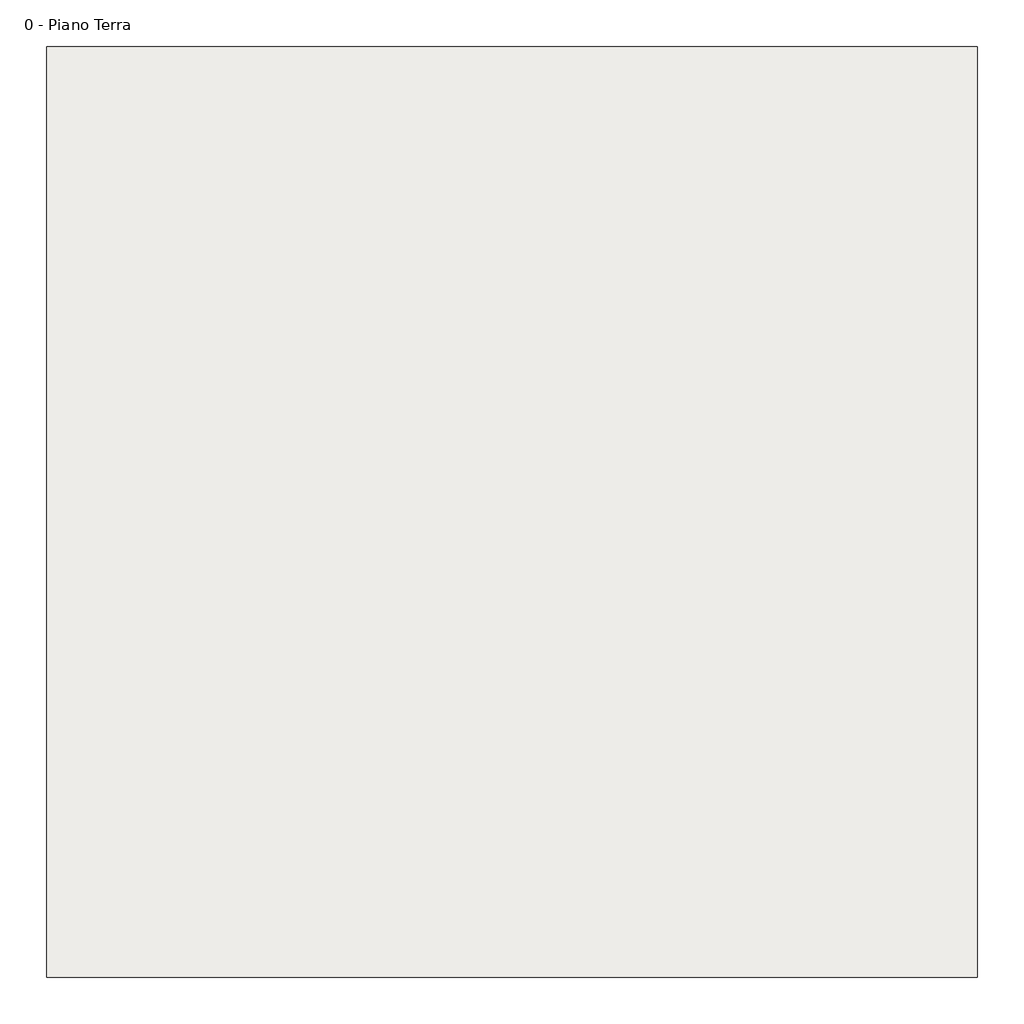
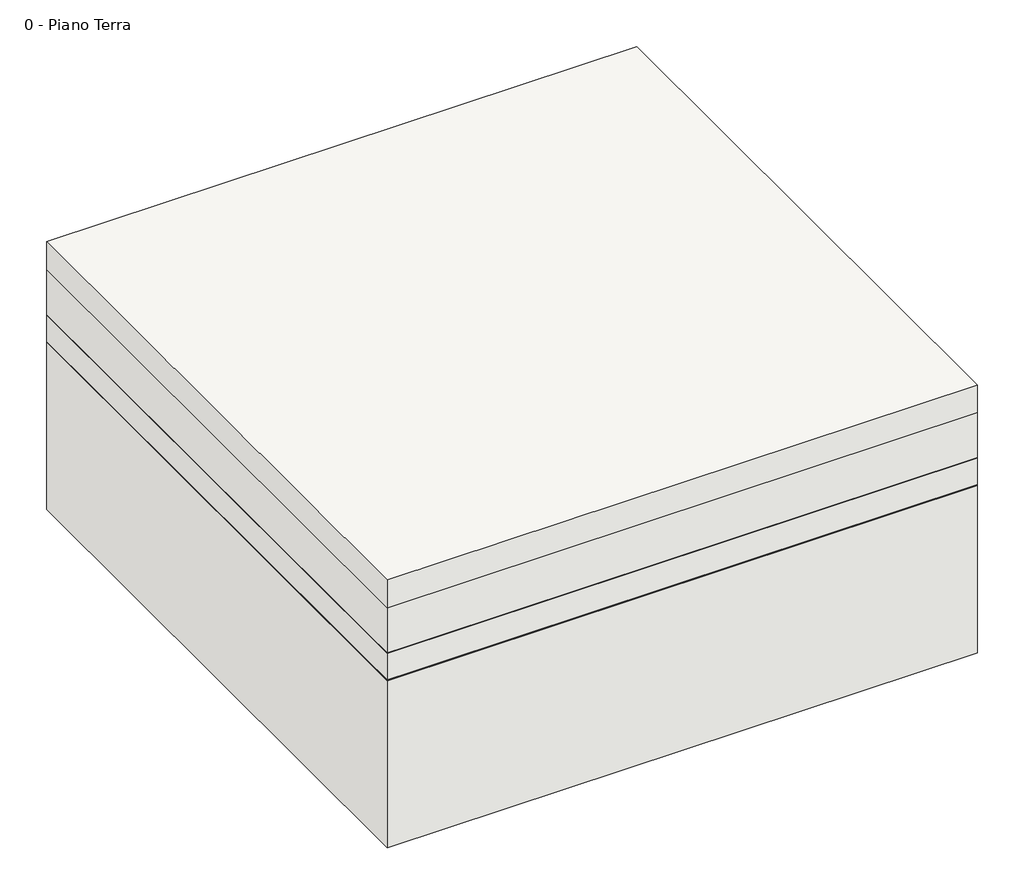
# One storey: 1 roof.
"""IFC4 building model written with IfcOpenShell, lengths in millimetres."""

from ifc_helpers import new_model, si_unit, frame, origin, place, context, project, spatial, polyline, outline, extrude, element, save

model = new_model("IFC4")

# Units and contexts
model_context = context("Model", 3, world=origin())
ifc_project = project(units=[si_unit("LENGTHUNIT", "METRE", prefix="MILLI")], contexts=[model_context])

# Site, building, storey
site = spatial("IfcSite", under=ifc_project)
building = spatial("IfcBuilding", under=site)
storey = spatial("IfcBuildingStorey", under=building, Name="0 - Piano Terra", Elevation=0.0)

# Roof
placement = place(None, origin())
element("IfcRoof", 1, ObjectType="DAKU_ESTENSIVO BASE", at=placement, inside=storey, context=model_context, shape_type="SweptSolid", body=[
    extrude(outline(polyline([(-577.9721405, 368.8308162), (422.0278595, 368.8308162), (422.0278595, -631.1691838), (-577.9721405, -631.1691838), (-577.9721405, 368.8308162)])), frame((0.0, 0.0, 0.05), z_axis=(0.0, 0.0, 1.0), x_axis=(1.0, 0.0, 0.0)), (0.0, 0.0, 1.0), 50.0),
    extrude(outline(polyline([(-577.9721405, 368.8308162), (422.0278595, 368.8308162), (422.0278595, -631.1691838), (-577.9721405, -631.1691838), (-577.9721405, 368.8308162)])), frame((0.0, 0.0, -79.95), z_axis=(0.0, 0.0, 1.0), x_axis=(1.0, 0.0, 0.0)), (0.0, 0.0, 1.0), 80.0),
    extrude(outline(polyline([(-577.9721405, 368.8308162), (422.0278595, 368.8308162), (422.0278595, -631.1691838), (-577.9721405, -631.1691838), (-577.9721405, 368.8308162)])), frame((0.0, 0.0, -81.3), z_axis=(0.0, 0.0, 1.0), x_axis=(1.0, 0.0, 0.0)), (0.0, 0.0, 1.0), 1.35),
    extrude(outline(polyline([(-577.9721405, 368.8308162), (422.0278595, 368.8308162), (422.0278595, -631.1691838), (-577.9721405, -631.1691838), (-577.9721405, 368.8308162)])), frame((0.0, 0.0, -128.3), z_axis=(0.0, 0.0, 1.0), x_axis=(1.0, 0.0, 0.0)), (0.0, 0.0, 1.0), 47.0),
    extrude(outline(polyline([(-577.9721405, 368.8308162), (422.0278595, 368.8308162), (422.0278595, -631.1691838), (-577.9721405, -631.1691838), (-577.9721405, 368.8308162)])), frame((0.0, 0.0, -130.0), z_axis=(0.0, 0.0, 1.0), x_axis=(1.0, 0.0, 0.0)), (0.0, 0.0, 1.0), 1.7),
    extrude(outline(polyline([(-577.9721405, 368.8308162), (422.0278595, 368.8308162), (422.0278595, -631.1691838), (-577.9721405, -631.1691838), (-577.9721405, 368.8308162)])), frame((0.0, 0.0, -430.0), z_axis=(0.0, 0.0, 1.0), x_axis=(1.0, 0.0, 0.0)), (0.0, 0.0, 1.0), 300.0),
])

save(model, "model.ifc")
